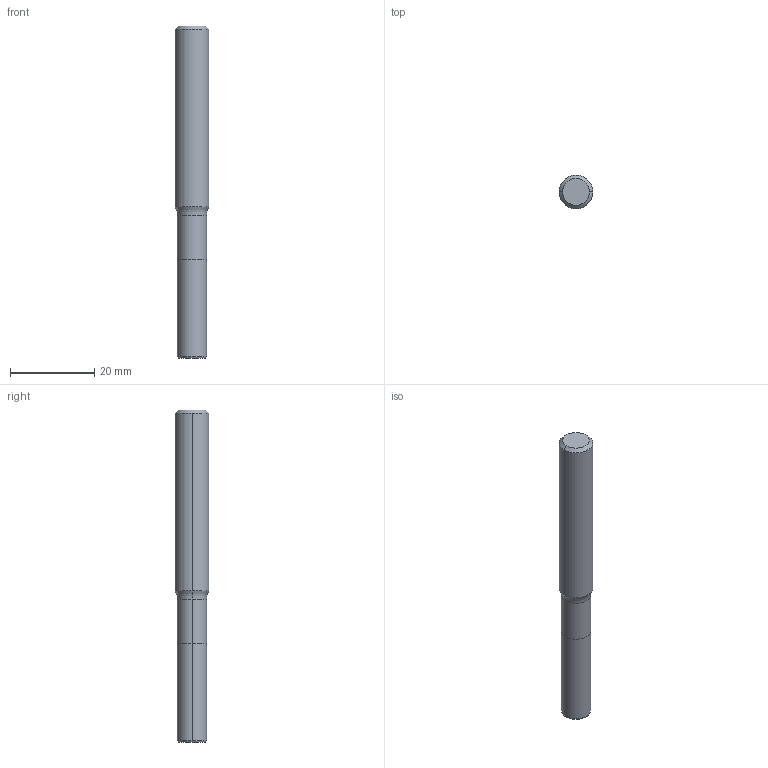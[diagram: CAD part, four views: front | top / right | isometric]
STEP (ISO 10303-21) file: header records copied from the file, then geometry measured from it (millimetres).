
FILE_DESCRIPTION (( 'STEP AP214' ), '1' );
FILE_NAME ('817.070.00_3D-model.step', '2022-02-23T23:31:49', ( '' ), ( '' ), 'SwSTEP 2.0', 'SolidWorks 2020', '' );
FILE_SCHEMA (( 'AUTOMOTIVE_DESIGN' ));
Length unit declared in the file: millimetre
Products named in the file (3): CUT-3D^Baugr82; NOCUT-3D^Baugr82; 817.070.00_3D-model
Assembly tree (2 placements, depth 2):
  817.070.00_3D-model
    CUT-3D^Baugr82
    NOCUT-3D^Baugr82
Bounding box: 8 x 8 x 79 mm (x, y, z)
Volume: 3546.5 mm3; surface area: 2026.3 mm2
Topology: 2 solids, 2 shells, 16 faces, 28 edges, 16 vertices
Faces by surface type: cylinder 6, cone 4, plane 4, torus 2
Entity records: 508 total; most frequent: DIRECTION 94, CARTESIAN_POINT 68, ORIENTED_EDGE 56, AXIS2_PLACEMENT_3D 42, EDGE_CURVE 28, CIRCLE 18, VERTEX_POINT 16, ADVANCED_FACE 16
